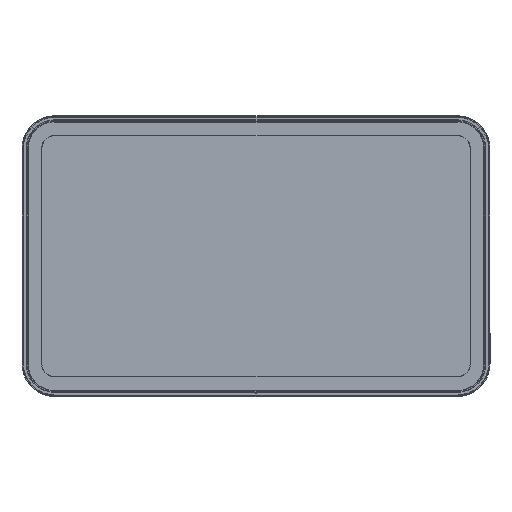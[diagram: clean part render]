
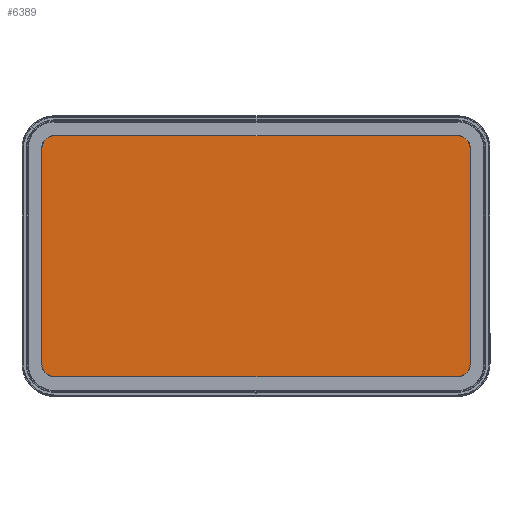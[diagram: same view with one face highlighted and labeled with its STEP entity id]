
A CAD part, front view. The second image highlights one B-rep face of the part: STEP entity #6389.
In plain terms, the highlighted planar face has unit normal (0, -1, 0.001).
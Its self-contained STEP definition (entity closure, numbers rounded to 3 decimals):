
#3522=CIRCLE('',#58528,27.5);
#3523=CIRCLE('',#58529,27.5);
#3524=CIRCLE('',#58530,27.5);
#3525=CIRCLE('',#58531,27.5);
#6389=ADVANCED_FACE('',(#11046),#8217,.T.);
#8217=PLANE('',#58532);
#11046=FACE_OUTER_BOUND('',#14017,.T.);
#14017=EDGE_LOOP('',(#29517,#29518,#29519,#29520,#29521,#29522,#29523,#29524));
#29517=ORIENTED_EDGE('',*,*,#42465,.F.);
#29518=ORIENTED_EDGE('',*,*,#42466,.F.);
#29519=ORIENTED_EDGE('',*,*,#42467,.F.);
#29520=ORIENTED_EDGE('',*,*,#42468,.F.);
#29521=ORIENTED_EDGE('',*,*,#42469,.F.);
#29522=ORIENTED_EDGE('',*,*,#42470,.F.);
#29523=ORIENTED_EDGE('',*,*,#42471,.F.);
#29524=ORIENTED_EDGE('',*,*,#42472,.F.);
#34675=VERTEX_POINT('',#98910);
#34676=VERTEX_POINT('',#98911);
#34677=VERTEX_POINT('',#98913);
#34678=VERTEX_POINT('',#98915);
#34679=VERTEX_POINT('',#98917);
#34680=VERTEX_POINT('',#98919);
#34681=VERTEX_POINT('',#98921);
#34682=VERTEX_POINT('',#98923);
#42465=EDGE_CURVE('',#34675,#34676,#3522,.T.);
#42466=EDGE_CURVE('',#34677,#34675,#48260,.T.);
#42467=EDGE_CURVE('',#34678,#34677,#3523,.T.);
#42468=EDGE_CURVE('',#34679,#34678,#48261,.T.);
#42469=EDGE_CURVE('',#34680,#34679,#3524,.T.);
#42470=EDGE_CURVE('',#34681,#34680,#48262,.T.);
#42471=EDGE_CURVE('',#34682,#34681,#3525,.T.);
#42472=EDGE_CURVE('',#34676,#34682,#48263,.T.);
#48260=LINE('',#98912,#54043);
#48261=LINE('',#98916,#54044);
#48262=LINE('',#98920,#54045);
#48263=LINE('',#98924,#54046);
#54043=VECTOR('',#73150,1.);
#54044=VECTOR('',#73153,1.);
#54045=VECTOR('',#73156,1.);
#54046=VECTOR('',#73159,1.);
#58528=AXIS2_PLACEMENT_3D('',#98909,#73148,#73149);
#58529=AXIS2_PLACEMENT_3D('',#98914,#73151,#73152);
#58530=AXIS2_PLACEMENT_3D('',#98918,#73154,#73155);
#58531=AXIS2_PLACEMENT_3D('',#98922,#73157,#73158);
#58532=AXIS2_PLACEMENT_3D('',#98925,#73160,#73161);
#73148=DIRECTION('',(0.,1.,-0.001));
#73149=DIRECTION('',(0.,-0.001,-1.));
#73150=DIRECTION('',(0.,-0.001,-1.));
#73151=DIRECTION('',(0.,1.,-0.001));
#73152=DIRECTION('',(1.,0.,0.));
#73153=DIRECTION('',(1.,0.,0.));
#73154=DIRECTION('',(0.,1.,-0.001));
#73155=DIRECTION('',(0.,0.001,1.));
#73156=DIRECTION('',(0.,0.001,1.));
#73157=DIRECTION('',(0.,1.,-0.001));
#73158=DIRECTION('',(-1.,0.,0.));
#73159=DIRECTION('',(-1.,0.,0.));
#73160=DIRECTION('',(0.,-1.,0.001));
#73161=DIRECTION('',(-1.,0.,0.));
#98909=CARTESIAN_POINT('',(430.,1.231,-229.966));
#98910=CARTESIAN_POINT('',(457.5,1.231,-229.966));
#98911=CARTESIAN_POINT('',(430.,1.192,-257.466));
#98912=CARTESIAN_POINT('',(457.5,1.392,-114.966));
#98913=CARTESIAN_POINT('',(457.5,1.877,230.033));
#98914=CARTESIAN_POINT('',(430.,1.877,230.033));
#98915=CARTESIAN_POINT('',(430.,1.915,257.533));
#98916=CARTESIAN_POINT('',(215.,1.915,257.533));
#98917=CARTESIAN_POINT('',(-430.,1.915,257.533));
#98918=CARTESIAN_POINT('',(-430.,1.877,230.033));
#98919=CARTESIAN_POINT('',(-457.5,1.877,230.033));
#98920=CARTESIAN_POINT('',(-457.5,1.715,115.034));
#98921=CARTESIAN_POINT('',(-457.5,1.231,-229.966));
#98922=CARTESIAN_POINT('',(-430.,1.231,-229.966));
#98923=CARTESIAN_POINT('',(-430.,1.192,-257.466));
#98924=CARTESIAN_POINT('',(-215.,1.192,-257.466));
#98925=CARTESIAN_POINT('',(0.,1.554,0.034));
